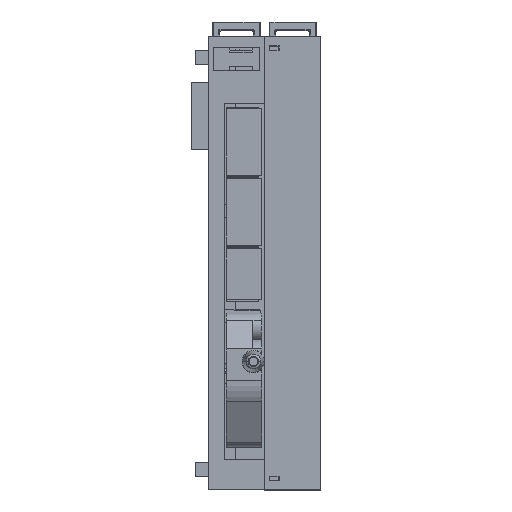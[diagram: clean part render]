
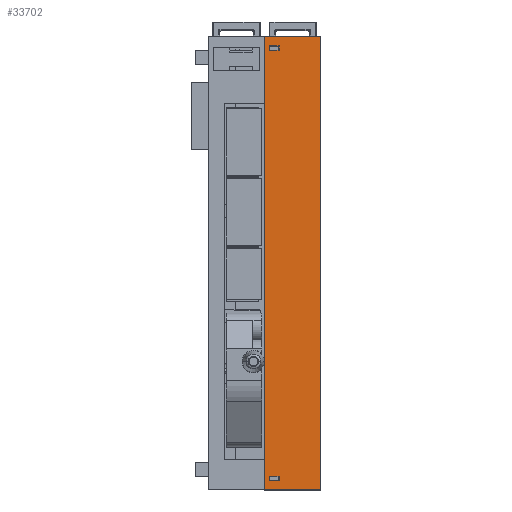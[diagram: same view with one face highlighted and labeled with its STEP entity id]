
A CAD part, top view. The second image highlights one B-rep face of the part: STEP entity #33702.
In plain terms, the highlighted planar face has unit normal (0, 0, 1) as drawn and (1, 0, 0) by its records, which use the part's own axes.
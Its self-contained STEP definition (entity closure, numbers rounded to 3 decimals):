
#783 = VECTOR ( 'NONE', #41523, 1000. ) ;
#1583 = VECTOR ( 'NONE', #45779, 1000. ) ;
#1681 = VERTEX_POINT ( 'NONE', #35491 ) ;
#1859 = EDGE_CURVE ( 'NONE', #21868, #21281, #46369, .T. ) ;
#2778 = DIRECTION ( 'NONE',  ( 0., 0., -1. ) ) ;
#3029 = CARTESIAN_POINT ( 'NONE',  ( 58.397, -51.946, -14.76 ) ) ;
#3316 = VERTEX_POINT ( 'NONE', #41969 ) ;
#3428 = CARTESIAN_POINT ( 'NONE',  ( 58.397, 43.854, -12.54 ) ) ;
#3774 = DIRECTION ( 'NONE',  ( 0., 0., 1. ) ) ;
#3865 = ORIENTED_EDGE ( 'NONE', *, *, #46147, .T. ) ;
#4598 = ORIENTED_EDGE ( 'NONE', *, *, #43902, .T. ) ;
#4808 = CARTESIAN_POINT ( 'NONE',  ( 58.397, 43.801, -12.54 ) ) ;
#4921 = VECTOR ( 'NONE', #39779, 1000. ) ;
#5600 = FACE_BOUND ( 'NONE', #33592, .T. ) ;
#6147 = LINE ( 'NONE', #35943, #4921 ) ;
#8963 = VECTOR ( 'NONE', #13936, 1000. ) ;
#9753 = ORIENTED_EDGE ( 'NONE', *, *, #1859, .T. ) ;
#10069 = CARTESIAN_POINT ( 'NONE',  ( 58.397, 46.827, 0.666 ) ) ;
#10299 = VERTEX_POINT ( 'NONE', #3029 ) ;
#10462 = CARTESIAN_POINT ( 'NONE',  ( 58.397, 43.727, -2. ) ) ;
#10909 = CARTESIAN_POINT ( 'NONE',  ( 58.397, 0., -14.76 ) ) ;
#11445 = CARTESIAN_POINT ( 'NONE',  ( 58.397, 46.827, -24. ) ) ;
#11530 = VERTEX_POINT ( 'NONE', #25036 ) ;
#11841 = LINE ( 'NONE', #49544, #1583 ) ;
#12143 = VERTEX_POINT ( 'NONE', #44209 ) ;
#12297 = CARTESIAN_POINT ( 'NONE',  ( 58.397, 43.801, -14.76 ) ) ;
#12596 = CARTESIAN_POINT ( 'NONE',  ( 58.397, 44.827, -11.5 ) ) ;
#12665 = EDGE_LOOP ( 'NONE', ( #23671, #17879, #9753, #15394 ) ) ;
#12946 = VECTOR ( 'NONE', #31858, 1000. ) ;
#13104 = CARTESIAN_POINT ( 'NONE',  ( 58.397, -53.973, -11.5 ) ) ;
#13936 = DIRECTION ( 'NONE',  ( 0., 0., -1. ) ) ;
#14349 = DIRECTION ( 'NONE',  ( -1., 0., 0. ) ) ;
#14499 = CARTESIAN_POINT ( 'NONE',  ( 58.397, 44.801, -12.54 ) ) ;
#15394 = ORIENTED_EDGE ( 'NONE', *, *, #48215, .F. ) ;
#15860 = VECTOR ( 'NONE', #33516, 1000. ) ;
#17358 = LINE ( 'NONE', #33662, #46655 ) ;
#17879 = ORIENTED_EDGE ( 'NONE', *, *, #40314, .F. ) ;
#19519 = ORIENTED_EDGE ( 'NONE', *, *, #47666, .T. ) ;
#19944 = CARTESIAN_POINT ( 'NONE',  ( 58.397, 0., -12.54 ) ) ;
#20932 = LINE ( 'NONE', #3428, #40061 ) ;
#21207 = ORIENTED_EDGE ( 'NONE', *, *, #45933, .T. ) ;
#21279 = LINE ( 'NONE', #10909, #783 ) ;
#21281 = VERTEX_POINT ( 'NONE', #24341 ) ;
#21868 = VERTEX_POINT ( 'NONE', #13104 ) ;
#22944 = VECTOR ( 'NONE', #49217, 1000. ) ;
#23114 = LINE ( 'NONE', #12596, #12946 ) ;
#23671 = ORIENTED_EDGE ( 'NONE', *, *, #43768, .F. ) ;
#23777 = DIRECTION ( 'NONE',  ( 0., 1., 0. ) ) ;
#24197 = VECTOR ( 'NONE', #3774, 1000. ) ;
#24341 = CARTESIAN_POINT ( 'NONE',  ( 58.397, -53.973, -24. ) ) ;
#25036 = CARTESIAN_POINT ( 'NONE',  ( 58.397, 44.801, -14.76 ) ) ;
#25146 = ORIENTED_EDGE ( 'NONE', *, *, #42160, .T. ) ;
#25797 = CARTESIAN_POINT ( 'NONE',  ( 58.397, -53.973, 0.666 ) ) ;
#26018 = FACE_OUTER_BOUND ( 'NONE', #12665, .T. ) ;
#26452 = DIRECTION ( 'NONE',  ( 0., 1., 0. ) ) ;
#27086 = EDGE_LOOP ( 'NONE', ( #32268, #3865, #21207, #19519 ) ) ;
#27314 = VECTOR ( 'NONE', #30518, 1000. ) ;
#28525 = LINE ( 'NONE', #49648, #27314 ) ;
#30518 = DIRECTION ( 'NONE',  ( 0., 0., -1. ) ) ;
#30899 = VERTEX_POINT ( 'NONE', #11445 ) ;
#31152 = ORIENTED_EDGE ( 'NONE', *, *, #47225, .T. ) ;
#31786 = VECTOR ( 'NONE', #23777, 1000. ) ;
#31858 = DIRECTION ( 'NONE',  ( 0., 1., 0. ) ) ;
#32268 = ORIENTED_EDGE ( 'NONE', *, *, #40124, .T. ) ;
#32325 = VERTEX_POINT ( 'NONE', #12297 ) ;
#33203 = AXIS2_PLACEMENT_3D ( 'NONE', #10462, #14349, #41084 ) ;
#33398 = PLANE ( 'NONE',  #33203 ) ;
#33516 = DIRECTION ( 'NONE',  ( 0., 0., -1. ) ) ;
#33592 = EDGE_LOOP ( 'NONE', ( #4598, #42993, #25146, #31152 ) ) ;
#33662 = CARTESIAN_POINT ( 'NONE',  ( 58.397, -50.946, 0. ) ) ;
#33702 = ADVANCED_FACE ( 'NONE', ( #46348, #5600, #26018 ), #33398, .F. ) ;
#33833 = VERTEX_POINT ( 'NONE', #34522 ) ;
#34014 = VERTEX_POINT ( 'NONE', #4808 ) ;
#34522 = CARTESIAN_POINT ( 'NONE',  ( 58.397, -50.946, -14.76 ) ) ;
#35491 = CARTESIAN_POINT ( 'NONE',  ( 58.397, 46.827, -11.5 ) ) ;
#35943 = CARTESIAN_POINT ( 'NONE',  ( 58.397, 43.801, -14.707 ) ) ;
#39779 = DIRECTION ( 'NONE',  ( 0., 0., 1. ) ) ;
#39972 = VERTEX_POINT ( 'NONE', #14499 ) ;
#40061 = VECTOR ( 'NONE', #26452, 1000. ) ;
#40124 = EDGE_CURVE ( 'NONE', #39972, #11530, #28525, .T. ) ;
#40314 = EDGE_CURVE ( 'NONE', #21868, #1681, #23114, .T. ) ;
#41084 = DIRECTION ( 'NONE',  ( 0., 0., 1. ) ) ;
#41523 = DIRECTION ( 'NONE',  ( 0., -1., 0. ) ) ;
#41955 = LINE ( 'NONE', #19944, #31786 ) ;
#41969 = CARTESIAN_POINT ( 'NONE',  ( 58.397, -51.946, -12.54 ) ) ;
#42160 = EDGE_CURVE ( 'NONE', #10299, #3316, #44554, .T. ) ;
#42993 = ORIENTED_EDGE ( 'NONE', *, *, #45596, .T. ) ;
#43261 = LINE ( 'NONE', #45300, #22944 ) ;
#43768 = EDGE_CURVE ( 'NONE', #1681, #30899, #47317, .T. ) ;
#43902 = EDGE_CURVE ( 'NONE', #12143, #33833, #17358, .T. ) ;
#44209 = CARTESIAN_POINT ( 'NONE',  ( 58.397, -50.946, -12.54 ) ) ;
#44554 = LINE ( 'NONE', #49770, #24197 ) ;
#45300 = CARTESIAN_POINT ( 'NONE',  ( 58.397, 43.854, -14.76 ) ) ;
#45596 = EDGE_CURVE ( 'NONE', #33833, #10299, #21279, .T. ) ;
#45779 = DIRECTION ( 'NONE',  ( 0., -1., 0. ) ) ;
#45933 = EDGE_CURVE ( 'NONE', #32325, #34014, #6147, .T. ) ;
#46147 = EDGE_CURVE ( 'NONE', #11530, #32325, #43261, .T. ) ;
#46348 = FACE_BOUND ( 'NONE', #27086, .T. ) ;
#46369 = LINE ( 'NONE', #25797, #15860 ) ;
#46655 = VECTOR ( 'NONE', #2778, 1000. ) ;
#47225 = EDGE_CURVE ( 'NONE', #3316, #12143, #41955, .T. ) ;
#47317 = LINE ( 'NONE', #10069, #8963 ) ;
#47666 = EDGE_CURVE ( 'NONE', #34014, #39972, #20932, .T. ) ;
#48215 = EDGE_CURVE ( 'NONE', #30899, #21281, #11841, .T. ) ;
#49217 = DIRECTION ( 'NONE',  ( 0., -1., 0. ) ) ;
#49544 = CARTESIAN_POINT ( 'NONE',  ( 58.397, 46.827, -24. ) ) ;
#49648 = CARTESIAN_POINT ( 'NONE',  ( 58.397, 44.801, -14.707 ) ) ;
#49770 = CARTESIAN_POINT ( 'NONE',  ( 58.397, -51.946, 0. ) ) ;
